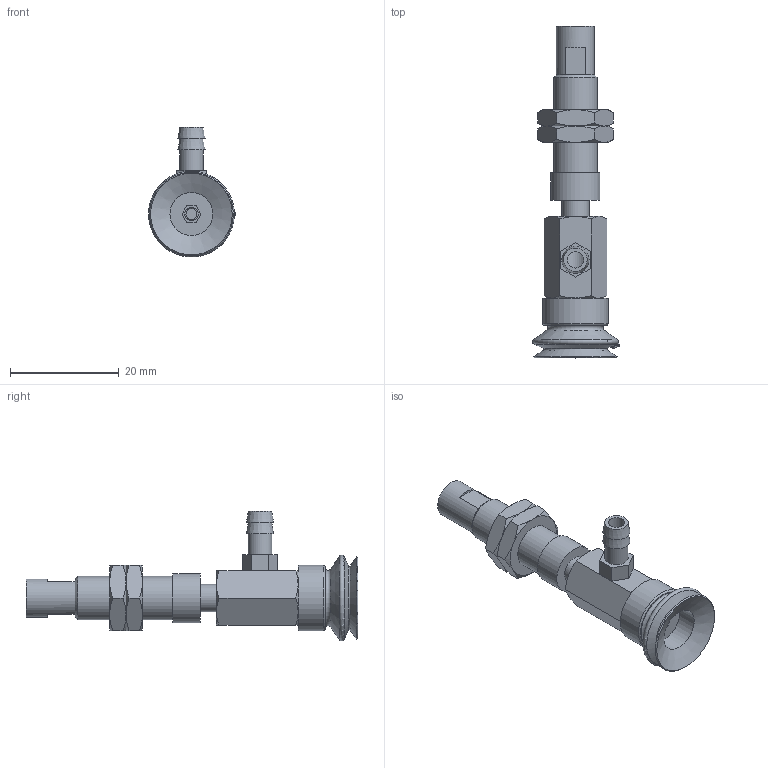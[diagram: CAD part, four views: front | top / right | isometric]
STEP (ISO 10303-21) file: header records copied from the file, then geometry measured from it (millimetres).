
FILE_DESCRIPTION(('STEP AP203'),'1');
FILE_NAME('-T.stp','2025-04-24T00:45:51',(' '),(' '),'Spatial InterOp 3D',' ',' ');
FILE_SCHEMA(('CONFIG_CONTROL_DESIGN'));
Length unit declared in the file: millimetre
Products named in the file (8): BNABPJYS-15-3-※-T; Adapter-15-NAPJ; CONNECTOR_S-15-3; NUT-NAPJ-15-3-s; NAPJTS-15-3-FBODY; NAPJTS-15-3-MBODY; BPJG-15-※; T
Assembly tree (8 placements, depth 2):
  BNABPJYS-15-3-※-T
    Adapter-15-NAPJ
    CONNECTOR_S-15-3
    NUT-NAPJ-15-3-s  x2
    NAPJTS-15-3-FBODY
    NAPJTS-15-3-MBODY
    BPJG-15-※
    T
Bounding box: 15.99 x 61 x 23.89 mm (x, y, z)
Volume: 4350.2 mm3; surface area: 5375.5 mm2
Topology: 8 solids, 8 shells, 169 faces, 358 edges, 216 vertices
Faces by surface type: plane 71, cone 58, cylinder 21, torus 9, bspline 6, sphere 4
Full cylindrical faces by diameter (mm): 2 x1, 2.5 x1, 3 x1, 4.134 x3, 4.3 x1, 4.6 x1, 5 x5, 7 x1, 7.188 x2, 7.9 x1, 8 x2, 9 x1, 12 x1
Entity records: 4266 total; most frequent: CARTESIAN_POINT 990, DIRECTION 610, ORIENTED_EDGE 508, AXIS2_PLACEMENT_3D 263, EDGE_CURVE 254, EDGE_LOOP 217, VERTEX_POINT 179, FACE_OUTER_BOUND 173
